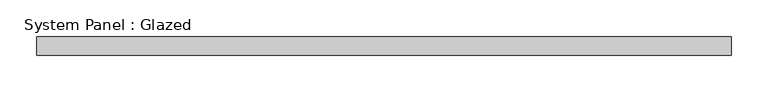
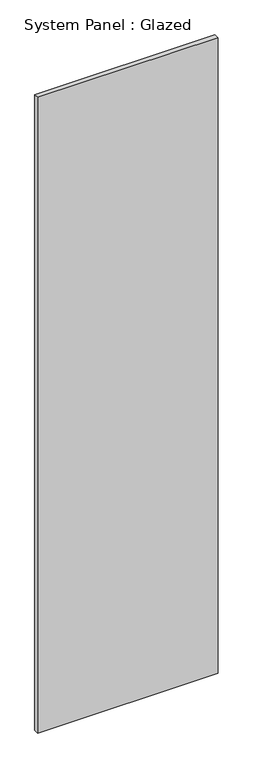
"""IFC4 building model written with IfcOpenShell, lengths in millimetres: plate geometry, System Panel : Glazed."""

from ifc_helpers import new_model, si_unit, origin, origin_with_axes, place, context, project, spatial, polyline, outline, extrude, source, transform, mapped, element, save


def system_panel_glazed_6c35e85d(model_context):
    return source(origin(), model_context, "Body", "SweptSolid", [
        extrude(outline(polyline([(470.0, 24.5), (-470.0, 24.5), (-470.0, 49.5), (470.0, 49.5), (470.0, 24.5)])), origin_with_axes(), (0.0, 0.0, 1.0), 3500.0),
    ])


if __name__ == "__main__":
    model = new_model("IFC4")
    model_context = context("Model", 3, world=origin())
    ifc_project = project(units=[si_unit("LENGTHUNIT", "METRE", prefix="MILLI")], contexts=[model_context])
    site = spatial("IfcSite", under=ifc_project)
    building = spatial("IfcBuilding", under=site)
    placement = place(None, origin())
    system_panel_glazed_shape = system_panel_glazed_6c35e85d(model_context)
    element("IfcPlate", 1, ObjectType="System Panel : Glazed", at=placement, inside=building, context=model_context, shape_type="MappedRepresentation", body=[
        mapped(system_panel_glazed_shape, transform((0.0, 0.0, 0.0), x_axis=(1.0, 0.0, 0.0), y_axis=(0.0, 1.0, 0.0), z_axis=(0.0, 0.0, 1.0))),
    ])
    save(model, "model.ifc")
